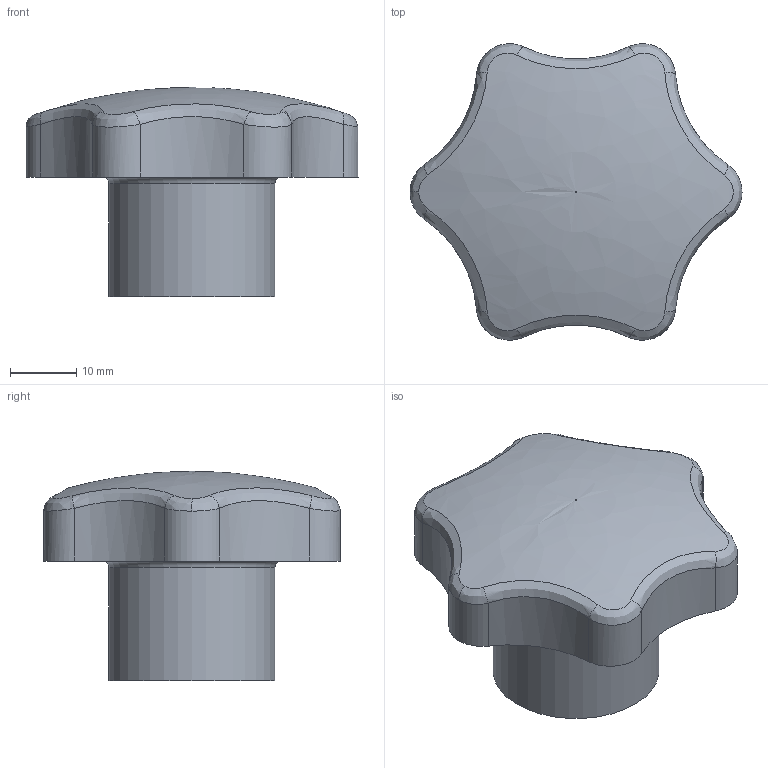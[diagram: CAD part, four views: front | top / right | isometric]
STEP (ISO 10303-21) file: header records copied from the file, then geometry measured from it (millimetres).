
FILE_DESCRIPTION( ('This file contains a STEP AP42 implementation' ,'as created by ZW3D STEP Interface translator.') ,'2;1' );
FILE_NAME( 'Rekojesc gwiazdowa typ C50.stp' ,'26 313.112829', (''), ('ZWCAD Software Co.'), 'Version 1.0', 'ZW3D to STEP translator', '' );
FILE_SCHEMA(('AP242_MANAGED_MODEL_BASED_3D_ENGINEERING_MIM_LF { 1 0 10303 442 1 1 4 }'));
Length unit declared in the file: millimetre
Products named in the file (1): 0
Bounding box: 50 x 44.63 x 31.5 mm (x, y, z)
Volume: 25124 mm3; surface area: 9935.3 mm2
Topology: 2 solids, 2 shells, 51 faces, 117 edges, 72 vertices
Faces by surface type: plane 18, cylinder 14, bspline 14, cone 4, torus 1
Full cylindrical faces by diameter (mm): 10 x1, 25 x1
Entity records: 2478 total; most frequent: CARTESIAN_POINT 1420, ORIENTED_EDGE 232, DIRECTION 164, EDGE_CURVE 116, VERTEX_POINT 72, AXIS2_PLACEMENT_3D 61, EDGE_LOOP 54, FACE_OUTER_BOUND 51
